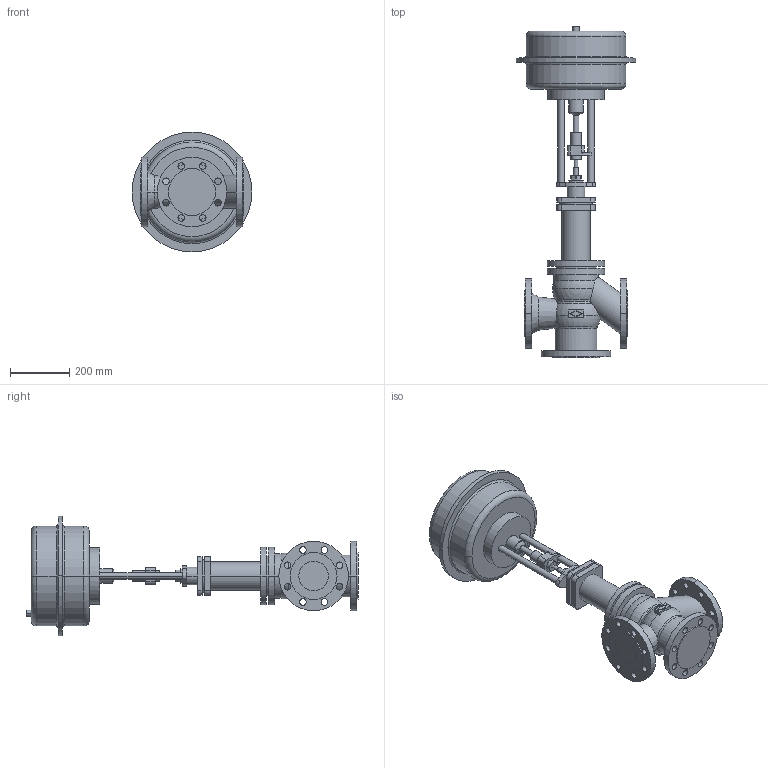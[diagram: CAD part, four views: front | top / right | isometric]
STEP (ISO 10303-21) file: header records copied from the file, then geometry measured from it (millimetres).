
FILE_DESCRIPTION(('OneSpaceDesigner STEP Export'),'2;1');
FILE_NAME('c000000740.stp','2006-09-21T 8:42:11',(''),(''),'OneSpace Designer STEP processor for AP214 (Solid Model)','OneSpace Designer 13.20A 18-Aug-2005 (C) CoCreate Software GmbH','');
FILE_SCHEMA(('AUTOMOTIVE_DESIGN { 1 0 10303 214 1 1 1 1 }'));
Length unit declared in the file: millimetre
Products named in the file (2): 1; 2
Bounding box: 405 x 1122.7 x 405 mm (x, y, z)
Volume: 32133726.1 mm3; surface area: 1229959.3 mm2
Topology: 2 solids, 2 shells, 252 faces, 629 edges, 411 vertices
Faces by surface type: cylinder 134, plane 88, torus 20, cone 6, sphere 4
Entity records: 6878 total; most frequent: CARTESIAN_POINT 1315, ORIENTED_EDGE 1250, DIRECTION 1010, EDGE_CURVE 625, VERTEX_POINT 411, AXIS2_PLACEMENT_3D 370, EDGE_LOOP 334, VECTOR 270
